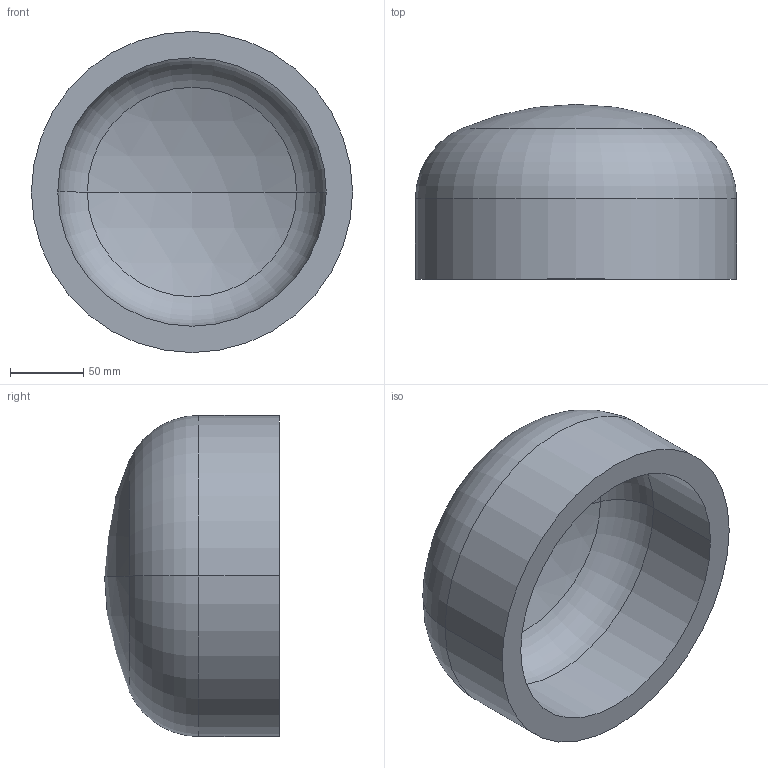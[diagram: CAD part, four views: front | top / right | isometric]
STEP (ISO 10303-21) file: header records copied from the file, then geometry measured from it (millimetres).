
FILE_DESCRIPTION (( 'STEP AP203' ), '1' );
FILE_NAME ('DIN 28013 Korbbogenform_-_Boden DIN 28013 - 219,1 x 55 - I - s=18.step', '2016-07-01T07:42:38', ( '' ), ( '' ), 'SwSTEP 2.0', 'SolidWorks 2013', '' );
FILE_SCHEMA (( 'CONFIG_CONTROL_DESIGN' ));
Length unit declared in the file: millimetre
Products named in the file (1): DIN 28013 Korbbogenform_-_Boden DIN 28013 - 219,1 x 55 - I - s=18
Bounding box: 219.1 x 119.28 x 219.1 mm (x, y, z)
Volume: 1474836 mm3; surface area: 175921.2 mm2
Topology: 1 solids, 1 shells, 13 faces, 24 edges, 14 vertices
Faces by surface type: torus 4, cylinder 4, sphere 4, plane 1
Entity records: 407 total; most frequent: DIRECTION 72, CARTESIAN_POINT 52, ORIENTED_EDGE 48, AXIS2_PLACEMENT_3D 34, EDGE_CURVE 24, CIRCLE 20, EDGE_LOOP 14, VERTEX_POINT 14
